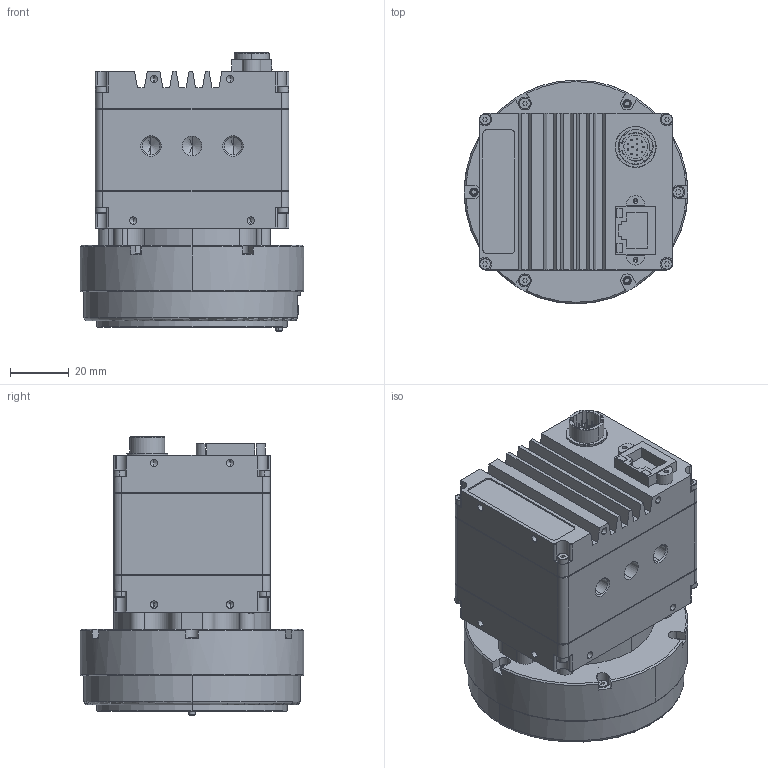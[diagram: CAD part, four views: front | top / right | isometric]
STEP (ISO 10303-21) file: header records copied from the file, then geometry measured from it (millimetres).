
FILE_DESCRIPTION (( 'STEP AP214' ), '1' );
FILE_NAME ('GT6600 PA EF-MOUNT.STEP', '2016-01-23T00:52:48', ( '' ), ( '' ), 'SwSTEP 2.0', 'SolidWorks 2015', '' );
FILE_SCHEMA (( 'AUTOMOTIVE_DESIGN' ));
Length unit declared in the file: millimetre
Products named in the file (4): GT6600 PA EF-MOUNT; GTLF BODY ASSY - defeatured_GT6600; GTLF PA FRONT ASSY - defeatured; CANON EF FRONT ASSY - defeatured
Assembly tree (3 placements, depth 2):
  GT6600 PA EF-MOUNT
    GTLF BODY ASSY - defeatured_GT6600
    GTLF PA FRONT ASSY - defeatured
    CANON EF FRONT ASSY - defeatured
Bounding box: 76.2 x 76.2 x 94.73 mm (x, y, z)
Volume: 191648.5 mm3; surface area: 70802.5 mm2
Topology: 2 solids, 33 shells, 1292 faces, 3586 edges, 2324 vertices
Faces by surface type: cylinder 481, plane 477, cone 196, bspline 63, torus 49, sphere 26
Entity records: 62601 total; most frequent: CARTESIAN_POINT 25475, DIRECTION 7177, ORIENTED_EDGE 6471, EDGE_CURVE 3430, AXIS2_PLACEMENT_3D 2745, VERTEX_POINT 2300, VECTOR 1687, LINE 1687
